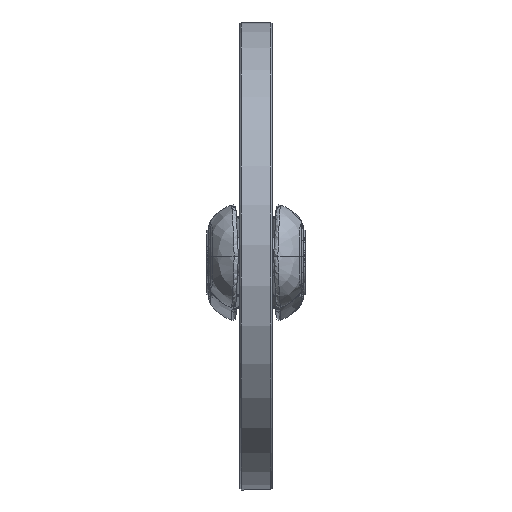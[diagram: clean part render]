
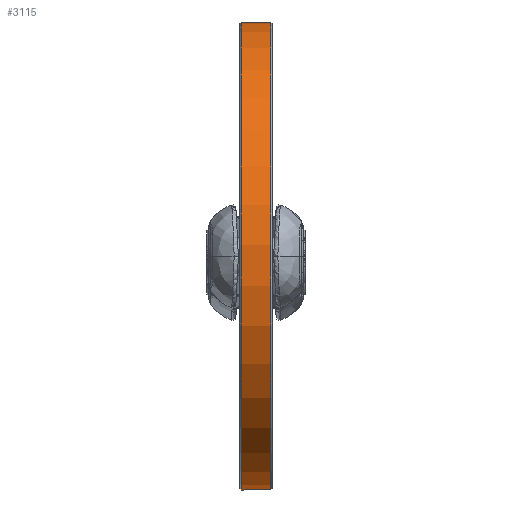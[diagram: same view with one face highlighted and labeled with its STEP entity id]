
A CAD part, top view. The second image highlights one B-rep face of the part: STEP entity #3115.
In plain terms, the highlighted cylindrical face has radius 392.5 mm (diameter 785 mm), a full revolution.
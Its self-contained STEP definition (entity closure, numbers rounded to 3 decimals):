
#656=CYLINDRICAL_SURFACE($,#3465,392.5);
#766=FACE_BOUND($,#1277,.T.);
#973=FACE_OUTER_BOUND($,#1276,.T.);
#1276=EDGE_LOOP($,(#2858));
#1277=EDGE_LOOP($,(#2859));
#1467=CIRCLE($,#3464,392.5);
#1468=CIRCLE($,#3466,392.5);
#1733=VERTEX_POINT($,#13672);
#1734=VERTEX_POINT($,#13675);
#2113=EDGE_CURVE($,#1733,#1733,#1467,.T.);
#2114=EDGE_CURVE($,#1734,#1734,#1468,.T.);
#2858=ORIENTED_EDGE($,*,*,#2114,.F.);
#2859=ORIENTED_EDGE($,*,*,#2113,.F.);
#3115=ADVANCED_FACE($,(#973,#766),#656,.T.);
#3464=AXIS2_PLACEMENT_3D($,#13673,#4205,#4206);
#3465=AXIS2_PLACEMENT_3D($,#13674,#4207,#4208);
#3466=AXIS2_PLACEMENT_3D($,#13676,#4209,#4210);
#4205=DIRECTION('center_axis',(0.,0.,-1.));
#4206=DIRECTION('ref_axis',(-1.,0.,0.));
#4207=DIRECTION('center_axis',(0.,0.,1.));
#4208=DIRECTION('ref_axis',(-1.,0.,0.));
#4209=DIRECTION('center_axis',(0.,0.,1.));
#4210=DIRECTION('ref_axis',(-1.,0.,0.));
#13672=CARTESIAN_POINT('',(392.5,0.,-24.5));
#13673=CARTESIAN_POINT('Origin',(0.,0.,-24.5));
#13674=CARTESIAN_POINT('Origin',(0.,0.,0.));
#13675=CARTESIAN_POINT('',(392.5,0.,24.5));
#13676=CARTESIAN_POINT('Origin',(0.,0.,24.5));
